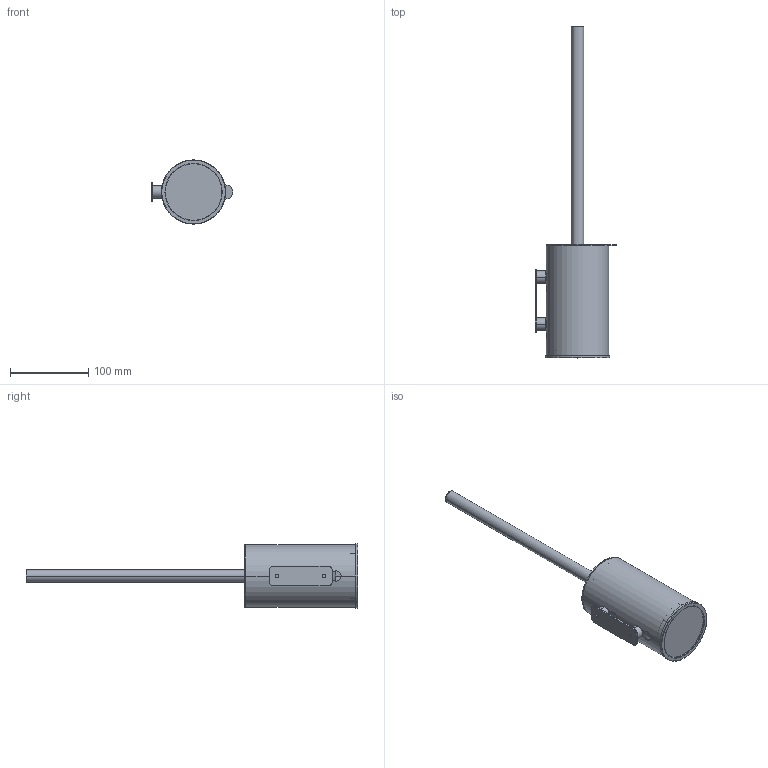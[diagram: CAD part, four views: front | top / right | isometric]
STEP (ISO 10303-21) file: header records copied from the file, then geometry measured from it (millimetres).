
FILE_DESCRIPTION((''),'2;1');
FILE_NAME('20211127-5700AA_ASM','2022-04-09T08:29:52',('Administrator'),(''),'CREO PARAMETRIC BY PTC INC, 2019471','CREO PARAMETRIC BY PTC INC, 2019471','');
FILE_SCHEMA(('CONFIG_CONTROL_DESIGN'));
Length unit declared in the file: millimetre
Products named in the file (12): 20211127-570100; 20211127-5703; 20211127-5704; 20211127-5705; 20211127-5706; 20211127-5707; 20211127-5702; 20211127-5708AA; 20211127-5709; 1018000; 20211127-5702_ASM; 20211127-5700AA_ASM
Assembly tree (13 placements, depth 3):
  20211127-5700AA_ASM
    20211127-570100
    20211127-5703
    20211127-5704
    20211127-5705
    20211127-5706
    20211127-5707
    20211127-5702
    20211127-5702_ASM
      20211127-5708AA
      20211127-5709  x2
      1018000  x2
Bounding box: 104 x 423 x 82 mm (x, y, z)
Volume: 353316.5 mm3; surface area: 210218.2 mm2
Topology: 12 solids, 14 shells, 325 faces, 808 edges, 513 vertices
Faces by surface type: cylinder 186, plane 47, cone 38, torus 24, bspline 24, sphere 6
Entity records: 13341 total; most frequent: CARTESIAN_POINT 7430, DIRECTION 1231, ORIENTED_EDGE 1166, EDGE_CURVE 585, AXIS2_PLACEMENT_3D 513, VERTEX_POINT 374, EDGE_LOOP 265, CIRCLE 252
